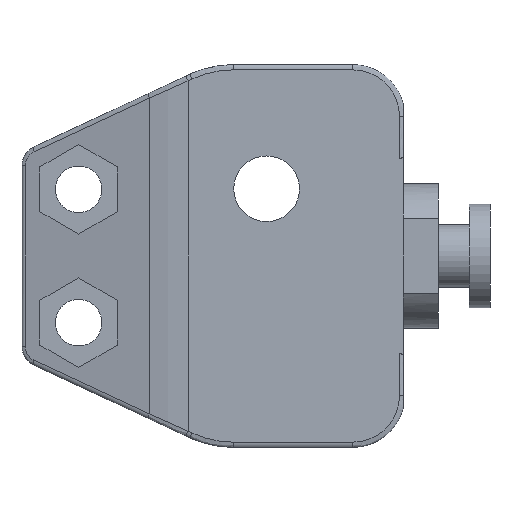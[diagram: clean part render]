
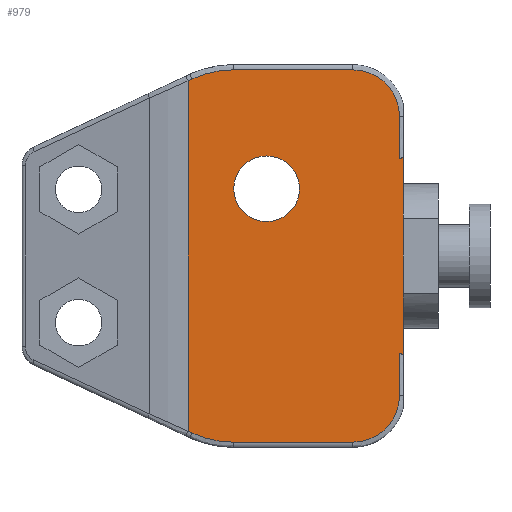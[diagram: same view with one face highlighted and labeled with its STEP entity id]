
A CAD part, left-side view. The second image highlights one B-rep face of the part: STEP entity #979.
In plain terms, the highlighted planar face has unit normal (-1, 0, 0).
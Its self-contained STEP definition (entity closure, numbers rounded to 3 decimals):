
#468=PLANE('',#3063);
#529=LINE('',#3807,#726);
#535=LINE('',#3897,#732);
#546=LINE('',#4173,#745);
#547=LINE('',#4311,#747);
#550=LINE('',#4325,#751);
#551=LINE('',#4326,#752);
#552=LINE('',#4327,#753);
#553=LINE('',#4328,#754);
#554=LINE('',#4332,#755);
#555=LINE('',#4334,#756);
#556=LINE('',#4336,#757);
#557=LINE('',#4340,#758);
#726=VECTOR('',#3226,1.);
#732=VECTOR('',#3238,1.);
#745=VECTOR('',#3271,1.);
#747=VECTOR('',#3281,1.);
#751=VECTOR('',#3291,1.);
#752=VECTOR('',#3292,1.);
#753=VECTOR('',#3293,1.);
#754=VECTOR('',#3294,1.);
#755=VECTOR('',#3297,1.);
#756=VECTOR('',#3298,1.);
#757=VECTOR('',#3299,1.);
#758=VECTOR('',#3302,1.);
#979=ADVANCED_FACE('',(#1177,#1178),#468,.T.);
#1177=FACE_BOUND('',#1241,.T.);
#1178=FACE_BOUND('',#1242,.T.);
#1241=EDGE_LOOP('',(#1516));
#1242=EDGE_LOOP('',(#1517,#1518,#1519,#1520,#1521,#1522,#1523,#1524,#1525,
#1526,#1527,#1528,#1529,#1530,#1531,#1532));
#1516=ORIENTED_EDGE('',*,*,#2598,.T.);
#1517=ORIENTED_EDGE('',*,*,#2599,.F.);
#1518=ORIENTED_EDGE('',*,*,#2555,.T.);
#1519=ORIENTED_EDGE('',*,*,#2600,.T.);
#1520=ORIENTED_EDGE('',*,*,#2543,.T.);
#1521=ORIENTED_EDGE('',*,*,#2601,.F.);
#1522=ORIENTED_EDGE('',*,*,#2586,.F.);
#1523=ORIENTED_EDGE('',*,*,#2589,.F.);
#1524=ORIENTED_EDGE('',*,*,#2602,.F.);
#1525=ORIENTED_EDGE('',*,*,#2603,.F.);
#1526=ORIENTED_EDGE('',*,*,#2604,.F.);
#1527=ORIENTED_EDGE('',*,*,#2605,.F.);
#1528=ORIENTED_EDGE('',*,*,#2606,.F.);
#1529=ORIENTED_EDGE('',*,*,#2607,.F.);
#1530=ORIENTED_EDGE('',*,*,#2608,.F.);
#1531=ORIENTED_EDGE('',*,*,#2592,.F.);
#1532=ORIENTED_EDGE('',*,*,#2595,.F.);
#2282=VERTEX_POINT('',#3808);
#2283=VERTEX_POINT('',#3809);
#2292=VERTEX_POINT('',#3896);
#2293=VERTEX_POINT('',#3898);
#2314=VERTEX_POINT('',#4167);
#2315=VERTEX_POINT('',#4172);
#2317=VERTEX_POINT('',#4187);
#2319=VERTEX_POINT('',#4244);
#2320=VERTEX_POINT('',#4246);
#2321=VERTEX_POINT('',#4310);
#2322=VERTEX_POINT('',#4324);
#2323=VERTEX_POINT('',#4329);
#2324=VERTEX_POINT('',#4331);
#2325=VERTEX_POINT('',#4333);
#2326=VERTEX_POINT('',#4335);
#2327=VERTEX_POINT('',#4337);
#2328=VERTEX_POINT('',#4339);
#2543=EDGE_CURVE('',#2282,#2283,#529,.T.);
#2555=EDGE_CURVE('',#2293,#2292,#535,.T.);
#2586=EDGE_CURVE('',#2315,#2314,#546,.T.);
#2589=EDGE_CURVE('',#2317,#2315,#2973,.T.);
#2592=EDGE_CURVE('',#2319,#2320,#2975,.T.);
#2595=EDGE_CURVE('',#2321,#2319,#547,.T.);
#2598=EDGE_CURVE('',#2322,#2322,#2976,.T.);
#2599=EDGE_CURVE('',#2293,#2321,#550,.T.);
#2600=EDGE_CURVE('',#2292,#2282,#551,.T.);
#2601=EDGE_CURVE('',#2314,#2283,#552,.T.);
#2602=EDGE_CURVE('',#2323,#2317,#553,.T.);
#2603=EDGE_CURVE('',#2324,#2323,#2977,.T.);
#2604=EDGE_CURVE('',#2325,#2324,#554,.T.);
#2605=EDGE_CURVE('',#2326,#2325,#555,.T.);
#2606=EDGE_CURVE('',#2327,#2326,#556,.T.);
#2607=EDGE_CURVE('',#2328,#2327,#2978,.T.);
#2608=EDGE_CURVE('',#2320,#2328,#557,.T.);
#2973=CIRCLE('',#3055,4.5);
#2975=CIRCLE('',#3057,4.5);
#2976=CIRCLE('',#3060,3.175);
#2977=CIRCLE('',#3061,9.5);
#2978=CIRCLE('',#3062,9.5);
#3055=AXIS2_PLACEMENT_3D('',#4188,#3275,#3276);
#3057=AXIS2_PLACEMENT_3D('',#4245,#3279,#3280);
#3060=AXIS2_PLACEMENT_3D('',#4323,#3289,#3290);
#3061=AXIS2_PLACEMENT_3D('',#4330,#3295,#3296);
#3062=AXIS2_PLACEMENT_3D('',#4338,#3300,#3301);
#3063=AXIS2_PLACEMENT_3D('',#4341,#3303,#3304);
#3226=DIRECTION('',(0.,0.,1.));
#3238=DIRECTION('',(0.,0.,1.));
#3271=DIRECTION('',(0.,0.,-1.));
#3275=DIRECTION('',(1.,0.,0.));
#3276=DIRECTION('',(0.,0.,1.));
#3279=DIRECTION('',(1.,0.,0.));
#3280=DIRECTION('',(0.,-1.,0.));
#3281=DIRECTION('',(0.,0.,-1.));
#3289=DIRECTION('',(1.,0.,0.));
#3290=DIRECTION('',(0.,0.,-1.));
#3291=DIRECTION('',(0.,1.,0.));
#3292=DIRECTION('',(0.,0.,1.));
#3293=DIRECTION('',(0.,-1.,0.));
#3294=DIRECTION('',(0.,-1.,0.));
#3295=DIRECTION('',(1.,0.,0.));
#3296=DIRECTION('',(0.,0.423,0.906));
#3297=DIRECTION('',(0.,-0.906,0.423));
#3298=DIRECTION('',(0.,0.,1.));
#3299=DIRECTION('',(0.,0.906,0.423));
#3300=DIRECTION('',(1.,0.,0.));
#3301=DIRECTION('',(0.,0.,-1.));
#3302=DIRECTION('',(0.,1.,0.));
#3303=DIRECTION('',(-1.,0.,0.));
#3304=DIRECTION('',(0.,1.,0.));
#3807=CARTESIAN_POINT('',(-5.,5.9,0.));
#3808=CARTESIAN_POINT('',(-5.,5.9,4.899));
#3809=CARTESIAN_POINT('',(-5.,5.9,9.437));
#3896=CARTESIAN_POINT('',(-5.,5.9,-4.899));
#3897=CARTESIAN_POINT('',(-5.,5.9,0.));
#3898=CARTESIAN_POINT('',(-5.,5.9,-9.437));
#4167=CARTESIAN_POINT('',(-5.,6.25,9.437));
#4172=CARTESIAN_POINT('',(-5.,6.25,13.5));
#4173=CARTESIAN_POINT('',(-5.,6.25,0.));
#4187=CARTESIAN_POINT('',(-5.,10.75,18.));
#4188=CARTESIAN_POINT('',(-5.,10.75,13.5));
#4244=CARTESIAN_POINT('',(-5.,6.25,-13.5));
#4245=CARTESIAN_POINT('',(-5.,10.75,-13.5));
#4246=CARTESIAN_POINT('',(-5.,10.75,-18.));
#4310=CARTESIAN_POINT('',(-5.,6.25,-9.437));
#4311=CARTESIAN_POINT('',(-5.,6.25,0.));
#4323=CARTESIAN_POINT('',(-5.,19.1,6.5));
#4324=CARTESIAN_POINT('',(-5.,19.1,3.325));
#4325=CARTESIAN_POINT('',(-5.,0.,-9.437));
#4326=CARTESIAN_POINT('',(-5.,5.9,0.));
#4327=CARTESIAN_POINT('',(-5.,0.,9.437));
#4328=CARTESIAN_POINT('',(-5.,26.446,18.));
#4329=CARTESIAN_POINT('',(-5.,22.305,18.));
#4330=CARTESIAN_POINT('',(-5.,22.305,8.5));
#4331=CARTESIAN_POINT('',(-5.,26.32,17.11));
#4332=CARTESIAN_POINT('',(-5.,29.546,15.606));
#4333=CARTESIAN_POINT('',(-5.,26.698,16.933));
#4334=CARTESIAN_POINT('',(-5.,26.698,0.));
#4335=CARTESIAN_POINT('',(-5.,26.698,-16.933));
#4336=CARTESIAN_POINT('',(-5.,38.66,-11.356));
#4337=CARTESIAN_POINT('',(-5.,26.32,-17.11));
#4338=CARTESIAN_POINT('',(-5.,22.305,-8.5));
#4339=CARTESIAN_POINT('',(-5.,22.305,-18.));
#4340=CARTESIAN_POINT('',(-5.,26.446,-18.));
#4341=CARTESIAN_POINT('',(-5.,28.642,0.));
